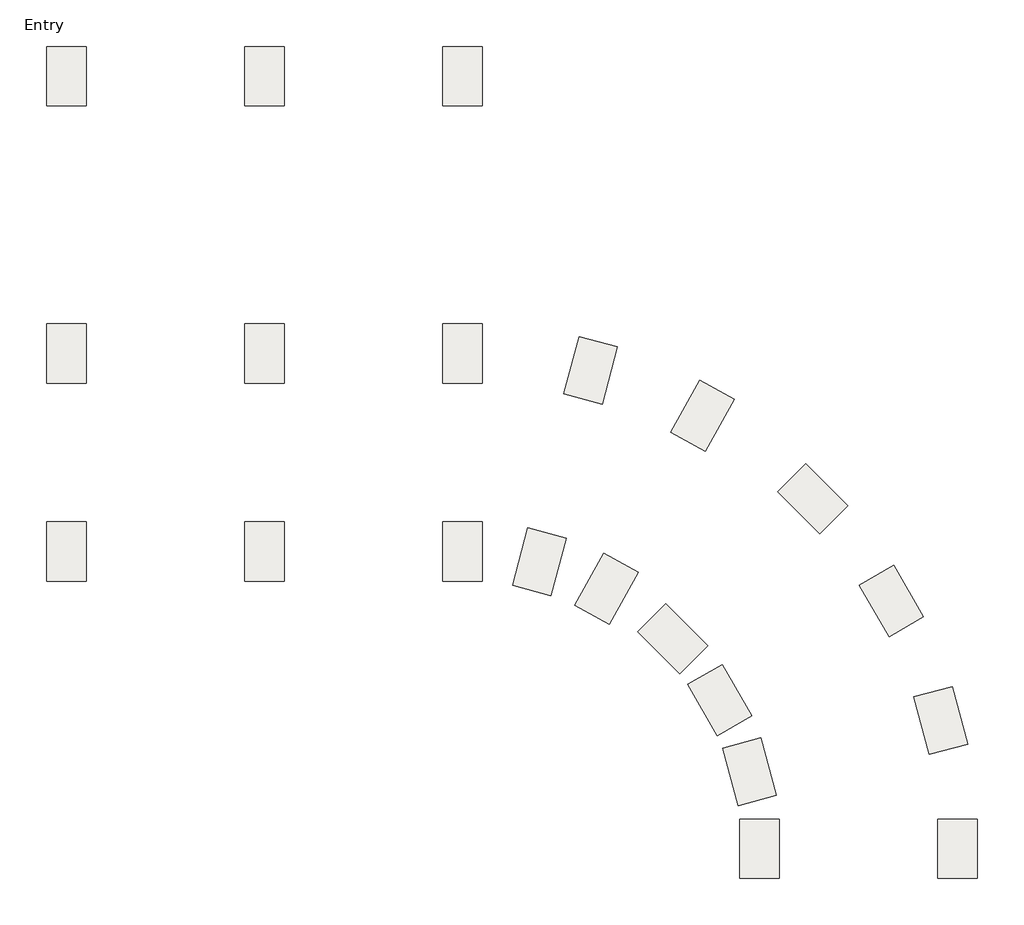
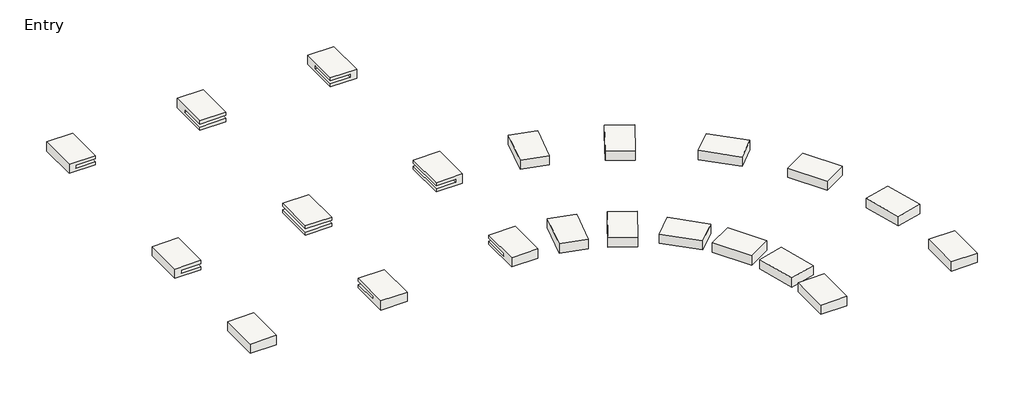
# One storey: 21 slabs.
"""IFC4 building model written with IfcOpenShell, lengths in millimetres."""

from ifc_helpers import new_model, si_unit, frame, origin, place, context, project, spatial, polyline, outline, extrude, faceted_brep, transform, mapped, element, save
from components import slab_5ba74754

model = new_model("IFC4")

# Units and contexts
model_context = context("Model", 3, world=origin())
ifc_project = project(units=[si_unit("LENGTHUNIT", "METRE", prefix="MILLI")], contexts=[model_context])

# Site, building, storey
site = spatial("IfcSite", under=ifc_project)
building = spatial("IfcBuilding", under=site)
storey = spatial("IfcBuildingStorey", under=building, Name="Entry", Elevation=0.0)

# Slabs
placement = place(None, origin())
element("IfcSlab", 1, ObjectType="Footing-Rectangular : 72\" x 48\" x 18\"", at=placement, inside=storey, context=model_context, shape_type="Brep", body=[
    faceted_brep([(-27022.0148109, 12313.049478, -1676.4), (-25802.8148109, 12313.049478, -1676.4), (-25802.8148109, 14141.849478, -1676.4), (-27022.0148109, 14141.849478, -1676.4), (-27022.0148109, 12313.049478, -2133.6), (-27022.0148109, 14141.849478, -2133.6), (-25802.8148109, 14141.849478, -2133.6), (-25802.8148109, 12313.049478, -2133.6), (-27022.0148109, 12313.049478, -1828.8), (-26107.6148109, 12313.049478, -1828.8), (-26107.6148109, 12313.049478, -1981.2), (-27022.0148109, 12313.049478, -1981.2), (-27022.0148109, 13532.249478, -1981.2), (-27022.0148109, 13532.249478, -1828.8), (-26107.6148109, 13532.249478, -1981.2), (-26107.6148109, 13532.249478, -1828.8)], [[[0, 1, 2, 3]], [[4, 5, 6, 7]], [[1, 0, 8, 9, 10, 11, 4, 7]], [[2, 1, 7, 6]], [[3, 2, 6, 5]], [[0, 3, 5, 4, 11, 12, 13, 8]], [[14, 12, 11, 10]], [[15, 9, 8, 13]], [[15, 14, 10, 9]], [[14, 15, 13, 12]]]),
])
element("IfcSlab", 2, ObjectType="Footing-Rectangular : 72\" x 48\" x 18\"", at=placement, inside=storey, context=model_context, shape_type="SweptSolid", body=[
    extrude(outline(polyline([(12313.049478, -1676.4), (14141.849478, -1676.4), (14141.849478, -2133.6), (12313.049478, -2133.6), (12313.049478, -1981.2), (13532.249478, -1981.2), (13532.249478, -1828.8), (12313.049478, -1828.8), (12313.049478, -1676.4)])), frame((-33118.0148109, 0.0, 0.0), z_axis=(1.0, 0.0, 0.0), x_axis=(0.0, 1.0, 0.0)), (0.0, 0.0, 1.0), 1219.2),
])
element("IfcSlab", 3, ObjectType="Footing-Rectangular : 72\" x 48\" x 18\"", at=placement, inside=storey, context=model_context, shape_type="Brep", body=[
    faceted_brep([(-39214.0148109, 12313.049478, -1676.4), (-37994.8148109, 12313.049478, -1676.4), (-37994.8148109, 14141.849478, -1676.4), (-39214.0148109, 14141.849478, -1676.4), (-39214.0148109, 12313.049478, -2133.6), (-39214.0148109, 14141.849478, -2133.6), (-37994.8148109, 14141.849478, -2133.6), (-37994.8148109, 12313.049478, -2133.6), (-37994.8148109, 12313.049478, -1981.2), (-38909.2148109, 12313.049478, -1981.2), (-38909.2148109, 12313.049478, -1828.8), (-37994.8148109, 12313.049478, -1828.8), (-37994.8148109, 13532.249478, -1828.8), (-37994.8148109, 13532.249478, -1981.2), (-38909.2148109, 13532.249478, -1981.2), (-38909.2148109, 13532.249478, -1828.8)], [[[0, 1, 2, 3]], [[4, 5, 6, 7]], [[1, 0, 4, 7, 8, 9, 10, 11]], [[2, 1, 11, 12, 13, 8, 7, 6]], [[3, 2, 6, 5]], [[0, 3, 5, 4]], [[13, 14, 9, 8]], [[10, 15, 12, 11]], [[14, 15, 10, 9]], [[15, 14, 13, 12]]]),
])
element("IfcSlab", 4, ObjectType="Footing-Rectangular : 72\" x 48\" x 18\"", at=placement, inside=storey, context=model_context, shape_type="SweptSolid", body=[
    extrude(outline(polyline([(-1676.4, -25802.8148109), (-1676.4, -27022.0148109), (-1828.8, -27022.0148109), (-1828.8, -26107.6148109), (-1981.2, -26107.6148109), (-1981.2, -27022.0148109), (-2133.6, -27022.0148109), (-2133.6, -25802.8148109), (-1676.4, -25802.8148109)])), frame((0.0, 3778.649478, 0.0), z_axis=(0.0, 1.0, 0.0), x_axis=(0.0, 0.0, 1.0)), (0.0, 0.0, 1.0), 1828.8),
])
element("IfcSlab", 5, ObjectType="Footing-Rectangular : 72\" x 48\" x 18\"", at=placement, inside=storey, context=model_context, shape_type="Brep", body=[
    faceted_brep([(-25802.8148109, -488.550522, -1676.4), (-27022.0148109, -488.550522, -1676.4), (-27022.0148109, -2317.350522, -1676.4), (-25802.8148109, -2317.350522, -1676.4), (-25802.8148109, -488.550522, -2133.6), (-25802.8148109, -2317.350522, -2133.6), (-27022.0148109, -2317.350522, -2133.6), (-27022.0148109, -488.550522, -2133.6), (-27022.0148109, -488.550522, -1981.2), (-26107.6148109, -488.550522, -1981.2), (-26107.6148109, -488.550522, -1828.8), (-27022.0148109, -488.550522, -1828.8), (-27022.0148109, -1707.750522, -1828.8), (-27022.0148109, -1707.750522, -1981.2), (-26107.6148109, -1707.750522, -1981.2), (-26107.6148109, -1707.750522, -1828.8)], [[[0, 1, 2, 3]], [[4, 5, 6, 7]], [[1, 0, 4, 7, 8, 9, 10, 11]], [[2, 1, 11, 12, 13, 8, 7, 6]], [[3, 2, 6, 5]], [[0, 3, 5, 4]], [[13, 14, 9, 8]], [[10, 15, 12, 11]], [[14, 15, 10, 9]], [[15, 14, 13, 12]]]),
])
element("IfcSlab", 6, ObjectType="Footing-Rectangular : 72\" x 48\" x 18\"", at=placement, inside=storey, context=model_context, shape_type="SweptSolid", body=[
    extrude(outline(polyline([(-2317.350522, -1676.4), (-488.550522, -1676.4), (-488.550522, -1828.8), (-1707.750522, -1828.8), (-1707.750522, -1981.2), (-488.550522, -1981.2), (-488.550522, -2133.6), (-2317.350522, -2133.6), (-2317.350522, -1676.4)])), frame((-33118.0148109, 0.0, 0.0), z_axis=(1.0, 0.0, 0.0), x_axis=(0.0, 1.0, 0.0)), (0.0, 0.0, 1.0), 1219.2),
])
element("IfcSlab", 7, ObjectType="Footing-Rectangular : 72\" x 48\" x 18\"", at=placement, inside=storey, context=model_context, shape_type="Brep", body=[
    faceted_brep([(-39214.0148109, -2317.350522, -1676.4), (-37994.8148109, -2317.350522, -1676.4), (-37994.8148109, -488.550522, -1676.4), (-39214.0148109, -488.550522, -1676.4), (-39214.0148109, -2317.350522, -2133.6), (-39214.0148109, -488.550522, -2133.6), (-37994.8148109, -488.550522, -2133.6), (-37994.8148109, -2317.350522, -2133.6), (-37994.8148109, -488.550522, -1981.2), (-37994.8148109, -1707.750522, -1981.2), (-37994.8148109, -1707.750522, -1828.8), (-37994.8148109, -488.550522, -1828.8), (-38909.2148109, -488.550522, -1828.8), (-38909.2148109, -488.550522, -1981.2), (-38909.2148109, -1707.750522, -1981.2), (-38909.2148109, -1707.750522, -1828.8)], [[[0, 1, 2, 3]], [[4, 5, 6, 7]], [[1, 0, 4, 7]], [[2, 1, 7, 6, 8, 9, 10, 11]], [[3, 2, 11, 12, 13, 8, 6, 5]], [[0, 3, 5, 4]], [[13, 14, 9, 8]], [[10, 15, 12, 11]], [[14, 15, 10, 9]], [[15, 14, 13, 12]]]),
])
element("IfcSlab", 8, ObjectType="Footing-Rectangular : 72\" x 48\" x 18\"", at=placement, inside=storey, context=model_context, shape_type="SweptSolid", body=[
    extrude(outline(polyline([(-31898.8148109, 3778.649478), (-33118.0148109, 3778.649478), (-33118.0148109, 5607.449478), (-31898.8148109, 5607.449478), (-31898.8148109, 3778.649478)])), frame((0.0, 0.0, -1828.8), z_axis=(0.0, 0.0, 1.0), x_axis=(1.0, 0.0, 0.0)), (0.0, 0.0, 1.0), 152.4),
    extrude(outline(polyline([(-33118.0148109, 3778.649478), (-33118.0148109, 5607.449478), (-31898.8148109, 5607.449478), (-31898.8148109, 3778.649478), (-33118.0148109, 3778.649478)])), frame((0.0, 0.0, -2133.6), z_axis=(0.0, 0.0, 1.0), x_axis=(1.0, 0.0, 0.0)), (0.0, 0.0, 1.0), 152.4),
])
element("IfcSlab", 9, ObjectType="Footing-Rectangular : 72\" x 48\" x 18\"", at=placement, inside=storey, context=model_context, shape_type="SweptSolid", body=[
    extrude(outline(polyline([(-1676.4, -37994.8148109), (-1676.4, -39214.0148109), (-2133.6, -39214.0148109), (-2133.6, -37994.8148109), (-1981.2, -37994.8148109), (-1981.2, -38909.2148109), (-1828.8, -38909.2148109), (-1828.8, -37994.8148109), (-1676.4, -37994.8148109)])), frame((0.0, 3778.649478, 0.0), z_axis=(0.0, 1.0, 0.0), x_axis=(0.0, 0.0, 1.0)), (0.0, 0.0, 1.0), 1828.8),
])
slab_shape = slab_5ba74754(model_context)
element("IfcSlab", 10, ObjectType="Footing-Rectangular : 72\" x 48\" x 18\"", at=placement, inside=storey, context=model_context, shape_type="MappedRepresentation", body=[
    mapped(slab_shape, transform((-11172.4148109, -10546.950522, -1676.4), x_axis=(1.0, 0.0, 0.0), y_axis=(0.0, 1.0, 0.0), z_axis=(0.0, 0.0, 1.0))),
])
element("IfcSlab", 11, ObjectType="Footing-Rectangular : 72\" x 48\" x 18\"", at=placement, inside=storey, context=model_context, shape_type="MappedRepresentation", body=[
    mapped(slab_shape, transform((-11691.7052182, -6602.5482746, -1676.4), x_axis=(0.9659258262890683, 0.2588190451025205, 0.0), y_axis=(-0.2588190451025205, 0.9659258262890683, 0.0), z_axis=(0.0, 0.0, 1.0))),
])
element("IfcSlab", 12, ObjectType="Footing-Rectangular : 72\" x 48\" x 18\"", at=placement, inside=storey, context=model_context, shape_type="MappedRepresentation", body=[
    mapped(slab_shape, transform((-13214.1876572, -2926.950522, -1676.4), x_axis=(0.8660254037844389, 0.4999999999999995, 0.0), y_axis=(-0.4999999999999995, 0.8660254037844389, 0.0), z_axis=(0.0, 0.0, 1.0))),
])
element("IfcSlab", 13, ObjectType="Footing-Rectangular : 72\" x 48\" x 18\"", at=placement, inside=storey, context=model_context, shape_type="MappedRepresentation", body=[
    mapped(slab_shape, transform((-15636.1074656, 229.3568233, -1676.4), x_axis=(0.7071067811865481, 0.7071067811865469, 0.0), y_axis=(-0.7071067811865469, 0.7071067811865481, 0.0), z_axis=(0.0, 0.0, 1.0))),
])
element("IfcSlab", 14, ObjectType="Footing-Rectangular : 72\" x 48\" x 18\"", at=placement, inside=storey, context=model_context, shape_type="MappedRepresentation", body=[
    mapped(slab_shape, transform((-19023.9161983, 2782.2538148, -1676.4), x_axis=(0.8746197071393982, -0.4848096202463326, 0.0), y_axis=(0.4848096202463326, 0.8746197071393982, 0.0), z_axis=(0.0, 0.0, 1.0))),
])
element("IfcSlab", 15, ObjectType="Footing-Rectangular : 72\" x 48\" x 18\"", at=placement, inside=storey, context=model_context, shape_type="MappedRepresentation", body=[
    mapped(slab_shape, transform((-22468.0125635, 4173.7590707, -1676.4), x_axis=(0.9659258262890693, -0.25881904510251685, 0.0), y_axis=(0.25881904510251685, 0.9659258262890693, 0.0), z_axis=(0.0, 0.0, 1.0))),
])
element("IfcSlab", 16, ObjectType="Footing-Rectangular : 72\" x 48\" x 18\"", at=placement, inside=storey, context=model_context, shape_type="MappedRepresentation", body=[
    mapped(slab_shape, transform((-17268.4148109, -10546.950522, -1676.4), x_axis=(1.0, 0.0, 0.0), y_axis=(0.0, 1.0, 0.0), z_axis=(0.0, 0.0, 1.0))),
])
element("IfcSlab", 17, ObjectType="Footing-Rectangular : 72\" x 48\" x 18\"", at=placement, inside=storey, context=model_context, shape_type="MappedRepresentation", body=[
    mapped(slab_shape, transform((-17579.9890553, -8180.3091736, -1676.4), x_axis=(0.9659258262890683, 0.2588190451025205, 0.0), y_axis=(-0.2588190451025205, 0.9659258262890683, 0.0), z_axis=(0.0, 0.0, 1.0))),
])
element("IfcSlab", 18, ObjectType="Footing-Rectangular : 72\" x 48\" x 18\"", at=placement, inside=storey, context=model_context, shape_type="MappedRepresentation", body=[
    mapped(slab_shape, transform((-18493.4785187, -5974.950522, -1676.4), x_axis=(0.8660254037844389, 0.4999999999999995, 0.0), y_axis=(-0.4999999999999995, 0.8660254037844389, 0.0), z_axis=(0.0, 0.0, 1.0))),
])
element("IfcSlab", 19, ObjectType="Footing-Rectangular : 72\" x 48\" x 18\"", at=placement, inside=storey, context=model_context, shape_type="MappedRepresentation", body=[
    mapped(slab_shape, transform((-19946.6304037, -4081.1661148, -1676.4), x_axis=(0.7071067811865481, 0.7071067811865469, 0.0), y_axis=(-0.7071067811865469, 0.7071067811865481, 0.0), z_axis=(0.0, 0.0, 1.0))),
])
element("IfcSlab", 20, ObjectType="Footing-Rectangular : 72\" x 48\" x 18\"", at=placement, inside=storey, context=model_context, shape_type="MappedRepresentation", body=[
    mapped(slab_shape, transform((-21979.3156433, -2549.4279199, -1676.4), x_axis=(0.8746197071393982, -0.4848096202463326, 0.0), y_axis=(0.4848096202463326, 0.8746197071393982, 0.0), z_axis=(0.0, 0.0, 1.0))),
])
element("IfcSlab", 21, ObjectType="Footing-Rectangular : 72\" x 48\" x 18\"", at=placement, inside=storey, context=model_context, shape_type="MappedRepresentation", body=[
    mapped(slab_shape, transform((-24045.7734625, -1714.5247664, -1676.4), x_axis=(0.9659258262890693, -0.25881904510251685, 0.0), y_axis=(0.25881904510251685, 0.9659258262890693, 0.0), z_axis=(0.0, 0.0, 1.0))),
])

save(model, "model.ifc")
